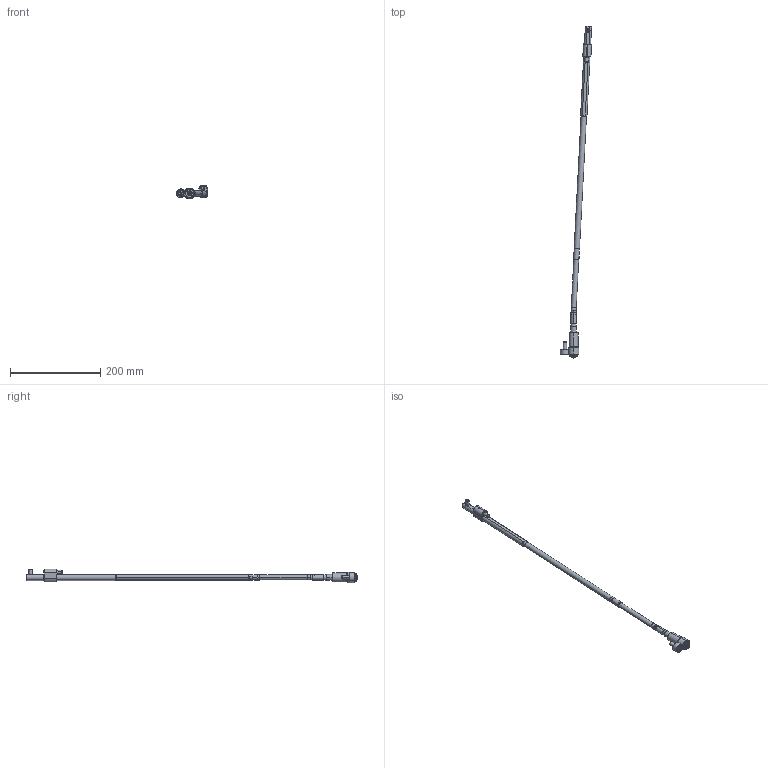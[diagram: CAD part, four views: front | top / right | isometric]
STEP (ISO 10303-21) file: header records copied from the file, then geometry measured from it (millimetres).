
FILE_DESCRIPTION (( 'STEP AP214' ), '1' );
FILE_NAME ('WL120100-EJE 3°.STEP', '2021-03-19T15:33:53', ( '' ), ( '' ), 'SwSTEP 2.0', 'SolidWorks 2019', '' );
FILE_SCHEMA (( 'AUTOMOTIVE_DESIGN' ));
Length unit declared in the file: millimetre
Products named in the file (17): 1DIN912645_DIN 912 M6 x 45 --- 45C; Web-WL12-A2; Web-WL12-A3; WL120100-D; Web-WL12-A8; WL120100-B; WL120100-E; 9DR2808-TOR; Web-WL12-A1; WL120100-EJE 3°; 3IMAN5X3-150_con sellador; WL120100-B1; Web-WL12-XX_ON-WL120100-3; 8WL12EJEP; Web-WL12-F01; 1DIN912820_DIN 912 M8 x 20 --- 20C; Web-WL12-F00.SLDPRT
Assembly tree (16 placements, depth 3):
  WL120100-EJE 3°
    Web-WL12-A8
    Web-WL12-XX_ON-WL120100-3
    Web-WL12-A3
    Web-WL12-A2
    Web-WL12-A1
    Web-WL12-F00.SLDPRT
      Web-WL12-F01
      1DIN912820_DIN 912 M8 x 20 --- 20C
      1DIN912645_DIN 912 M6 x 45 --- 45C
    WL120100-D
    8WL12EJEP
    WL120100-E
    9DR2808-TOR
    WL120100-B
      WL120100-B1
      3IMAN5X3-150_con sellador
Bounding box: 69.29 x 737.49 x 29.9 mm (x, y, z)
Volume: 113342.3 mm3; surface area: 49842.5 mm2
Topology: 15 solids, 15 shells, 432 faces, 906 edges, 525 vertices
Faces by surface type: plane 139, cylinder 123, cone 120, torus 50
Entity records: 13661 total; most frequent: DIRECTION 2240, CARTESIAN_POINT 2104, ORIENTED_EDGE 1788, AXIS2_PLACEMENT_3D 929, EDGE_CURVE 894, VERTEX_POINT 525, EDGE_LOOP 477, CIRCLE 476
